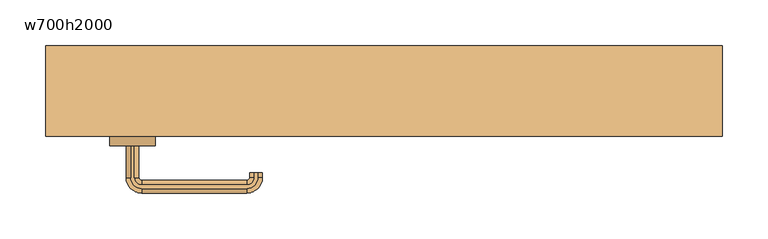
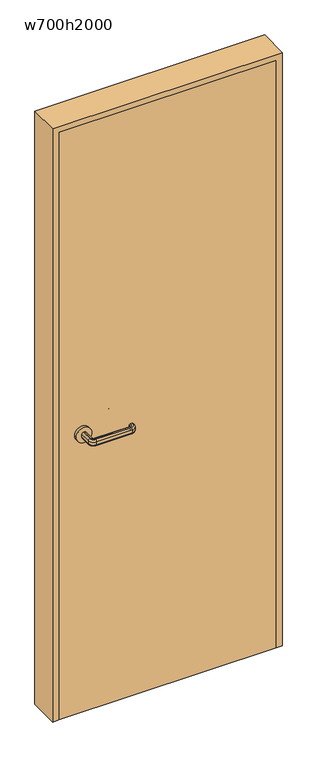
"""IFC4 building model written with IfcOpenShell, lengths in millimetres: door geometry, 片開き : w700h2000."""

from ifc_helpers import new_model, si_unit, point, frame, frame_2d, origin, origin_with_axes, place, context, project, spatial, polyline, circle_curve, ellipse_curve, trimmed, segment, composite_curve, outline, extrude, source, transform, mapped, element, save
from ifc_brep_helpers import plane_surface, cylinder_surface, revolved_surface, advanced_brep


def w700h2000_2a992a34(model_context):
    return source(origin(), model_context, "Body", "SolidModel", [
        advanced_brep(
        [(-277.0, -59.5, 960.0), (-273.0, -59.5, 960.0), (-268.0, -59.5, 955.0), (-268.0, -59.5, 945.0477623), (-273.0, -59.5, 940.0477623), (-277.0, -59.5, 940.0477623), (-282.0, -59.5, 945.0477623), (-282.0, -59.5, 955.0), (-282.0, -94.5, 955.0), (-277.0, -94.5, 960.0), (-282.0, -94.5, 945.0477623), (-277.0, -94.5, 940.0477623), (-273.0, -94.5, 940.0477623), (-265.0, -102.5, 940.0477623), (-150.0, -102.5, 940.0477623), (-142.0, -94.5, 940.0477623), (-142.0, -89.5, 940.0477623), (-138.0, -89.5, 940.0477623), (-138.0, -94.5, 940.0477623), (-150.0, -106.5, 940.0477623), (-265.0, -106.5, 940.0477623), (-268.0, -94.5, 945.0477623), (-268.0, -94.5, 955.0), (-273.0, -94.5, 960.0), (-265.0, -106.5, 960.0), (-150.0, -106.5, 960.0), (-138.0, -94.5, 960.0), (-138.0, -89.5, 960.0), (-142.0, -89.5, 960.0), (-142.0, -94.5, 960.0), (-150.0, -102.5, 960.0), (-265.0, -102.5, 960.0), (-265.0, -111.5, 955.0), (-265.0, -111.5, 945.0477623), (-265.0, -97.5, 945.0477623), (-265.0, -97.5, 955.0), (-150.0, -111.5, 955.0), (-150.0, -111.5, 945.0477623), (-150.0, -97.5, 945.0477623), (-150.0, -97.5, 955.0), (-133.0, -94.5, 955.0), (-133.0, -94.5, 945.0477623), (-147.0, -94.5, 945.0477623), (-147.0, -94.5, 955.0), (-133.0, -89.5, 955.0), (-133.0, -89.5, 945.0477623), (-147.0, -89.5, 945.0477623), (-147.0, -89.5, 955.0)],
        [
            (0, 1),
            (1, 2, circle_curve(frame((-273.0, -59.5, 955.0), z_axis=(0.0, 1.0, 0.0), x_axis=(-1.0, 0.0, 0.0)), 5.0)),
            (2, 3),
            (3, 4, circle_curve(frame((-273.0, -59.5, 945.0477623), z_axis=(0.0, 1.0, 0.0), x_axis=(-1.0, 0.0, 0.0)), 5.0)),
            (4, 5),
            (5, 6, circle_curve(frame((-277.0, -59.5, 945.0477623), z_axis=(0.0, 1.0, 0.0), x_axis=(-1.0, 0.0, 0.0)), 5.0)),
            (6, 7),
            (7, 0, circle_curve(frame((-277.0, -59.5, 955.0), z_axis=(0.0, 1.0, 0.0), x_axis=(-1.0, 0.0, 0.0)), 5.0)),
            (7, 8),
            (8, 9, circle_curve(frame((-277.0, -94.5, 955.0), z_axis=(0.0, 1.0, 0.0), x_axis=(-1.0, 0.0, 0.0)), 5.0)),
            (9, 0),
            (6, 10),
            (10, 8),
            (5, 11),
            (11, 10, circle_curve(frame((-277.0, -94.5, 945.0477623), z_axis=(0.0, 1.0, 0.0), x_axis=(-1.0, 0.0, 0.0)), 5.0)),
            (4, 12),
            (12, 13, circle_curve(frame((-265.0, -94.5, 940.0477623), z_axis=(0.0, 0.0, 1.0), x_axis=(-1.0, 0.0, 0.0)), 8.0)),
            (13, 14),
            (14, 15, circle_curve(frame((-150.0, -94.5, 940.0477623), z_axis=(0.0, 0.0, 1.0), x_axis=(0.0, -1.0, 0.0)), 8.0)),
            (15, 16),
            (16, 17),
            (17, 18),
            (18, 19, circle_curve(frame((-150.0, -94.5, 940.0477623), z_axis=(0.0, 0.0, -1.0), x_axis=(0.0, -1.0, 0.0)), 12.0)),
            (19, 20),
            (20, 11, circle_curve(frame((-265.0, -94.5, 940.0477623), z_axis=(0.0, 0.0, -1.0), x_axis=(-1.0, 0.0, 0.0)), 12.0)),
            (3, 21),
            (21, 12, circle_curve(frame((-273.0, -94.5, 945.0477623), z_axis=(0.0, 1.0, 0.0), x_axis=(-1.0, 0.0, 0.0)), 5.0)),
            (2, 22),
            (22, 21),
            (1, 23),
            (23, 22, circle_curve(frame((-273.0, -94.5, 955.0), z_axis=(0.0, 1.0, 0.0), x_axis=(-1.0, 0.0, 0.0)), 5.0)),
            (9, 24, circle_curve(frame((-265.0, -94.5, 960.0), z_axis=(0.0, 0.0, 1.0), x_axis=(-1.0, 0.0, 0.0)), 12.0)),
            (24, 25),
            (25, 26, circle_curve(frame((-150.0, -94.5, 960.0), z_axis=(0.0, 0.0, 1.0), x_axis=(0.0, -1.0, 0.0)), 12.0)),
            (26, 27),
            (27, 28),
            (28, 29),
            (29, 30, circle_curve(frame((-150.0, -94.5, 960.0), z_axis=(0.0, 0.0, -1.0), x_axis=(0.0, -1.0, 0.0)), 8.0)),
            (30, 31),
            (31, 23, circle_curve(frame((-265.0, -94.5, 960.0), z_axis=(0.0, 0.0, -1.0), x_axis=(-1.0, 0.0, 0.0)), 8.0)),
            (32, 24, circle_curve(frame((-265.0, -106.5, 955.0), z_axis=(-1.0, 0.0, 0.0), x_axis=(0.0, -1.0, 0.0)), 5.0)),
            (8, 32, circle_curve(frame((-265.0, -94.5, 955.0), z_axis=(0.0, 0.0, 1.0), x_axis=(-1.0, 0.0, 0.0)), 17.0)),
            (33, 32),
            (10, 33, circle_curve(frame((-265.0, -94.5, 945.0477623), z_axis=(0.0, 0.0, 1.0), x_axis=(-1.0, 0.0, 0.0)), 17.0)),
            (20, 33, circle_curve(frame((-265.0, -106.5, 945.0477623), z_axis=(-1.0, 0.0, 0.0), x_axis=(0.0, -1.0, 0.0)), 5.0)),
            (34, 13, circle_curve(frame((-265.0, -102.5, 945.0477623), z_axis=(-1.0, 0.0, 0.0), x_axis=(0.0, -1.0, 0.0)), 5.0)),
            (21, 34, circle_curve(frame((-265.0, -94.5, 945.0477623), z_axis=(0.0, 0.0, 1.0), x_axis=(-1.0, 0.0, 0.0)), 3.0)),
            (35, 34),
            (22, 35, circle_curve(frame((-265.0, -94.5, 955.0), z_axis=(0.0, 0.0, 1.0), x_axis=(-1.0, 0.0, 0.0)), 3.0)),
            (31, 35, circle_curve(frame((-265.0, -102.5, 955.0), z_axis=(-1.0, 0.0, 0.0), x_axis=(0.0, -1.0, 0.0)), 5.0)),
            (32, 36),
            (36, 25, circle_curve(frame((-150.0, -106.5, 955.0), z_axis=(-1.0, 0.0, 0.0), x_axis=(0.0, -1.0, 0.0)), 5.0)),
            (33, 37),
            (37, 36),
            (19, 37, circle_curve(frame((-150.0, -106.5, 945.0477623), z_axis=(-1.0, 0.0, 0.0), x_axis=(0.0, -1.0, 0.0)), 5.0)),
            (34, 38),
            (38, 14, circle_curve(frame((-150.0, -102.5, 945.0477623), z_axis=(-1.0, 0.0, 0.0), x_axis=(0.0, -1.0, 0.0)), 5.0)),
            (35, 39),
            (39, 38),
            (30, 39, circle_curve(frame((-150.0, -102.5, 955.0), z_axis=(-1.0, 0.0, 0.0), x_axis=(0.0, -1.0, 0.0)), 5.0)),
            (40, 26, circle_curve(frame((-138.0, -94.5, 955.0), z_axis=(0.0, -1.0, 0.0), x_axis=(1.0, 0.0, 0.0)), 5.0)),
            (36, 40, circle_curve(frame((-150.0, -94.5, 955.0), z_axis=(0.0, 0.0, 1.0), x_axis=(0.0, -1.0, 0.0)), 17.0)),
            (41, 40),
            (37, 41, circle_curve(frame((-150.0, -94.5, 945.0477623), z_axis=(0.0, 0.0, 1.0), x_axis=(0.0, -1.0, 0.0)), 17.0)),
            (18, 41, circle_curve(frame((-138.0, -94.5, 945.0477623), z_axis=(0.0, -1.0, 0.0), x_axis=(1.0, 0.0, 0.0)), 5.0)),
            (42, 15, circle_curve(frame((-142.0, -94.5, 945.0477623), z_axis=(0.0, -1.0, 0.0), x_axis=(1.0, 0.0, 0.0)), 5.0)),
            (38, 42, circle_curve(frame((-150.0, -94.5, 945.0477623), z_axis=(0.0, 0.0, 1.0), x_axis=(0.0, -1.0, 0.0)), 3.0)),
            (43, 42),
            (39, 43, circle_curve(frame((-150.0, -94.5, 955.0), z_axis=(0.0, 0.0, 1.0), x_axis=(0.0, -1.0, 0.0)), 3.0)),
            (29, 43, circle_curve(frame((-142.0, -94.5, 955.0), z_axis=(0.0, -1.0, 0.0), x_axis=(1.0, 0.0, 0.0)), 5.0)),
            (27, 44, circle_curve(frame((-138.0, -89.5, 955.0), z_axis=(0.0, 1.0, 0.0), x_axis=(1.0, 0.0, 0.0)), 5.0)),
            (44, 45),
            (45, 17, circle_curve(frame((-138.0, -89.5, 945.0477623), z_axis=(0.0, 1.0, 0.0), x_axis=(1.0, 0.0, 0.0)), 5.0)),
            (16, 46, circle_curve(frame((-142.0, -89.5, 945.0477623), z_axis=(0.0, 1.0, 0.0), x_axis=(1.0, 0.0, 0.0)), 5.0)),
            (46, 47),
            (47, 28, circle_curve(frame((-142.0, -89.5, 955.0), z_axis=(0.0, 1.0, 0.0), x_axis=(1.0, 0.0, 0.0)), 5.0)),
            (40, 44),
            (41, 45),
            (42, 46),
            (43, 47),
        ],
        [
            plane_surface(frame((-285.198039, -59.5, 950.0), z_axis=(0.0, 1.0, 0.0), x_axis=(0.0, 0.0, 1.0))),
            cylinder_surface(frame((-277.0, -59.5, 955.0), z_axis=(0.0, 1.0, 0.0), x_axis=(-1.0, 0.0, 0.0)), 5.0),
            plane_surface(frame((-282.0, -59.5, 955.0), z_axis=(-1.0, 0.0, 0.0), x_axis=(0.0, -1.0, 0.0))),
            cylinder_surface(frame((-277.0, -59.5, 945.0477623), z_axis=(0.0, 1.0, 0.0), x_axis=(-1.0, 0.0, 0.0)), 5.0),
            plane_surface(frame((-277.0, -59.5, 940.0477623), z_axis=(0.0, 0.0, -1.0), x_axis=(0.0, -1.0, 0.0))),
            cylinder_surface(frame((-273.0, -59.5, 945.0477623), z_axis=(0.0, 1.0, 0.0), x_axis=(-1.0, 0.0, 0.0)), 5.0),
            plane_surface(frame((-268.0, -59.5, 945.0477623), z_axis=(1.0, 0.0, 0.0), x_axis=(0.0, -1.0, 0.0))),
            cylinder_surface(frame((-273.0, -59.5, 955.0), z_axis=(0.0, 1.0, 0.0), x_axis=(-1.0, 0.0, 0.0)), 5.0),
            plane_surface(frame((-273.0, -59.5, 960.0), z_axis=(0.0, 0.0, 1.0), x_axis=(0.0, -1.0, 0.0))),
            revolved_surface(trimmed(ellipse_curve(frame((-277.0, -94.5, 955.0), z_axis=(0.0, -1.0, 0.0), x_axis=(-1.0, 0.0, 0.0)), 5.0, 5.0), [point((-277.0, -94.5, 960.0))], [point((-282.0, -94.5, 955.0))], True, "CARTESIAN"), (-265.0, -94.5, 950.0), (0.0, 0.0, -1.0)),
            cylinder_surface(frame((-265.0, -94.5, 950.0), z_axis=(0.0, 0.0, -1.0), x_axis=(-1.0, 0.0, 0.0)), 17.0),
            revolved_surface(trimmed(ellipse_curve(frame((-277.0, -94.5, 945.0477623), z_axis=(0.0, -1.0, 0.0), x_axis=(-1.0, 0.0, 0.0)), 5.0, 5.0), [point((-282.0, -94.5, 945.0477623))], [point((-277.0, -94.5, 940.0477623))], True, "CARTESIAN"), (-265.0, -94.5, 950.0), (0.0, 0.0, -1.0)),
            revolved_surface(trimmed(ellipse_curve(frame((-273.0, -94.5, 945.0477623), z_axis=(0.0, -1.0, 0.0), x_axis=(-1.0, 0.0, 0.0)), 5.0, 5.0), [point((-273.0, -94.5, 940.0477623))], [point((-268.0, -94.5, 945.0477623))], True, "CARTESIAN"), (-265.0, -94.5, 950.0), (0.0, 0.0, -1.0)),
            revolved_surface(polyline([(-268.0, -94.5, 945.0477623), (-268.0, -94.5, 955.0)]), (-265.0, -94.5, 950.0), (0.0, 0.0, -1.0)),
            revolved_surface(trimmed(ellipse_curve(frame((-273.0, -94.5, 955.0), z_axis=(0.0, -1.0, 0.0), x_axis=(-1.0, 0.0, 0.0)), 5.0, 5.0), [point((-268.0, -94.5, 955.0))], [point((-273.0, -94.5, 960.0))], True, "CARTESIAN"), (-265.0, -94.5, 950.0), (0.0, 0.0, -1.0)),
            cylinder_surface(frame((-265.0, -106.5, 955.0), z_axis=(-1.0, 0.0, 0.0), x_axis=(0.0, -1.0, 0.0)), 5.0),
            plane_surface(frame((-265.0, -111.5, 955.0), z_axis=(0.0, -1.0, 0.0), x_axis=(1.0, 0.0, 0.0))),
            cylinder_surface(frame((-265.0, -106.5, 945.0477623), z_axis=(-1.0, 0.0, 0.0), x_axis=(0.0, -1.0, 0.0)), 5.0),
            cylinder_surface(frame((-265.0, -102.5, 945.0477623), z_axis=(-1.0, 0.0, 0.0), x_axis=(0.0, -1.0, 0.0)), 5.0),
            plane_surface(frame((-265.0, -97.5, 945.0477623), z_axis=(0.0, 1.0, 0.0), x_axis=(1.0, 0.0, 0.0))),
            cylinder_surface(frame((-265.0, -102.5, 955.0), z_axis=(-1.0, 0.0, 0.0), x_axis=(0.0, -1.0, 0.0)), 5.0),
            revolved_surface(trimmed(ellipse_curve(frame((-150.0, -106.5, 955.0), z_axis=(1.0, 0.0, 0.0), x_axis=(0.0, -1.0, 0.0)), 5.0, 5.0), [point((-150.0, -106.5, 960.0))], [point((-150.0, -111.5, 955.0))], True, "CARTESIAN"), (-150.0, -94.5, 950.0), (0.0, 0.0, -1.0)),
            cylinder_surface(frame((-150.0, -94.5, 950.0), z_axis=(0.0, 0.0, -1.0), x_axis=(0.0, -1.0, 0.0)), 17.0),
            revolved_surface(trimmed(ellipse_curve(frame((-150.0, -106.5, 945.0477623), z_axis=(1.0, 0.0, 0.0), x_axis=(0.0, -1.0, 0.0)), 5.0, 5.0), [point((-150.0, -111.5, 945.0477623))], [point((-150.0, -106.5, 940.0477623))], True, "CARTESIAN"), (-150.0, -94.5, 950.0), (0.0, 0.0, -1.0)),
            revolved_surface(trimmed(ellipse_curve(frame((-150.0, -102.5, 945.0477623), z_axis=(1.0, 0.0, 0.0), x_axis=(0.0, -1.0, 0.0)), 5.0, 5.0), [point((-150.0, -102.5, 940.0477623))], [point((-150.0, -97.5, 945.0477623))], True, "CARTESIAN"), (-150.0, -94.5, 950.0), (0.0, 0.0, -1.0)),
            revolved_surface(polyline([(-150.0, -97.5, 945.0477623), (-150.0, -97.5, 955.0)]), (-150.0, -94.5, 950.0), (0.0, 0.0, -1.0)),
            revolved_surface(trimmed(ellipse_curve(frame((-150.0, -102.5, 955.0), z_axis=(1.0, 0.0, 0.0), x_axis=(0.0, -1.0, 0.0)), 5.0, 5.0), [point((-150.0, -97.5, 955.0))], [point((-150.0, -102.5, 960.0))], True, "CARTESIAN"), (-150.0, -94.5, 950.0), (0.0, 0.0, -1.0)),
            plane_surface(frame((-150.198039, -89.5, 950.0), z_axis=(0.0, 1.0, 0.0), x_axis=(0.0, 0.0, -1.0))),
            cylinder_surface(frame((-138.0, -94.5, 955.0), z_axis=(0.0, -1.0, 0.0), x_axis=(1.0, 0.0, 0.0)), 5.0),
            plane_surface(frame((-133.0, -94.5, 955.0), z_axis=(1.0, 0.0, 0.0), x_axis=(0.0, 1.0, 0.0))),
            cylinder_surface(frame((-138.0, -94.5, 945.0477623), z_axis=(0.0, -1.0, 0.0), x_axis=(1.0, 0.0, 0.0)), 5.0),
            cylinder_surface(frame((-142.0, -94.5, 945.0477623), z_axis=(0.0, -1.0, 0.0), x_axis=(1.0, 0.0, 0.0)), 5.0),
            plane_surface(frame((-147.0, -94.5, 945.0477623), z_axis=(-1.0, 0.0, 0.0), x_axis=(0.0, 1.0, 0.0))),
            cylinder_surface(frame((-142.0, -94.5, 955.0), z_axis=(0.0, -1.0, 0.0), x_axis=(1.0, 0.0, 0.0)), 5.0),
        ],
        [
            (0, [[1, 2, 3, 4, 5, 6, 7, 8]]),
            (1, [[9, 10, 11, -8]]),
            (2, [[12, 13, -9, -7]]),
            (3, [[14, 15, -12, -6]]),
            (4, [[16, 17, 18, 19, 20, 21, 22, 23, 24, 25, -14, -5]]),
            (5, [[26, 27, -16, -4]]),
            (6, [[28, 29, -26, -3]]),
            (7, [[30, 31, -28, -2]]),
            (8, [[-11, 32, 33, 34, 35, 36, 37, 38, 39, 40, -30, -1]]),
            (9, [[41, -32, -10, 42]]),
            (10, [[43, -42, -13, 44]]),
            (11, [[45, -44, -15, -25]]),
            (12, [[46, -17, -27, 47]]),
            (13, [[48, -47, -29, 49]]),
            (14, [[50, -49, -31, -40]]),
            (15, [[51, 52, -33, -41]]),
            (16, [[53, 54, -51, -43]]),
            (17, [[-24, 55, -53, -45]]),
            (18, [[56, 57, -18, -46]]),
            (19, [[58, 59, -56, -48]]),
            (20, [[-39, 60, -58, -50]]),
            (21, [[61, -34, -52, 62]]),
            (22, [[63, -62, -54, 64]]),
            (23, [[65, -64, -55, -23]]),
            (24, [[66, -19, -57, 67]]),
            (25, [[68, -67, -59, 69]]),
            (26, [[70, -69, -60, -38]]),
            (27, [[71, 72, 73, -21, 74, 75, 76, -36]]),
            (28, [[77, -71, -35, -61]]),
            (29, [[78, -72, -77, -63]]),
            (30, [[-22, -73, -78, -65]]),
            (31, [[79, -74, -20, -66]]),
            (32, [[80, -75, -79, -68]]),
            (33, [[-37, -76, -80, -70]]),
        ],
    ),
        advanced_brep(
        [(-273.0, -9.5, 940.0), (-268.0, -9.5, 945.0), (-268.0, -9.5, 955.0), (-273.0, -9.5, 960.0), (-277.0, -9.5, 960.0), (-282.0, -9.5, 955.0), (-282.0, -9.5, 945.0), (-277.0, -9.5, 940.0), (-277.0, 25.5, 940.0), (-265.0, 37.5, 940.0), (-150.0, 37.5, 940.0), (-138.0, 25.5, 940.0), (-138.0, 20.5, 940.0), (-142.0, 20.5, 940.0), (-142.0, 25.5, 940.0), (-150.0, 33.5, 940.0), (-265.0, 33.5, 940.0), (-273.0, 25.5, 940.0), (-282.0, 25.5, 945.0), (-282.0, 25.5, 955.0), (-277.0, 25.5, 960.0), (-273.0, 25.5, 960.0), (-265.0, 33.5, 960.0), (-150.0, 33.5, 960.0), (-142.0, 25.5, 960.0), (-142.0, 20.5, 960.0), (-138.0, 20.5, 960.0), (-138.0, 25.5, 960.0), (-150.0, 37.5, 960.0), (-265.0, 37.5, 960.0), (-268.0, 25.5, 955.0), (-268.0, 25.5, 945.0), (-265.0, 42.5, 945.0), (-265.0, 42.5, 955.0), (-265.0, 28.5, 955.0), (-265.0, 28.5, 945.0), (-150.0, 42.5, 945.0), (-150.0, 42.5, 955.0), (-150.0, 28.5, 955.0), (-150.0, 28.5, 945.0), (-133.0, 25.5, 945.0), (-133.0, 25.5, 955.0), (-147.0, 25.5, 955.0), (-147.0, 25.5, 945.0), (-133.0, 20.5, 945.0), (-133.0, 20.5, 955.0), (-147.0, 20.5, 955.0), (-147.0, 20.5, 945.0)],
        [
            (0, 1, circle_curve(frame((-273.0, -9.5, 945.0), z_axis=(0.0, -1.0, 0.0), x_axis=(1.0, 0.0, 0.0)), 5.0)),
            (1, 2),
            (2, 3, circle_curve(frame((-273.0, -9.5, 955.0), z_axis=(0.0, -1.0, 0.0), x_axis=(1.0, 0.0, 0.0)), 5.0)),
            (3, 4),
            (4, 5, circle_curve(frame((-277.0, -9.5, 955.0), z_axis=(0.0, -1.0, 0.0), x_axis=(1.0, 0.0, 0.0)), 5.0)),
            (5, 6),
            (6, 7, circle_curve(frame((-277.0, -9.5, 945.0), z_axis=(0.0, -1.0, 0.0), x_axis=(1.0, 0.0, 0.0)), 5.0)),
            (7, 0),
            (7, 8),
            (8, 9, circle_curve(frame((-265.0, 25.5, 940.0), z_axis=(0.0, 0.0, -1.0), x_axis=(-1.0, 0.0, 0.0)), 12.0)),
            (9, 10),
            (10, 11, circle_curve(frame((-150.0, 25.5, 940.0), z_axis=(0.0, 0.0, -1.0), x_axis=(0.0, 1.0, 0.0)), 12.0)),
            (11, 12),
            (12, 13),
            (13, 14),
            (14, 15, circle_curve(frame((-150.0, 25.5, 940.0), z_axis=(0.0, 0.0, 1.0), x_axis=(0.0, 1.0, 0.0)), 8.0)),
            (15, 16),
            (16, 17, circle_curve(frame((-265.0, 25.5, 940.0), z_axis=(0.0, 0.0, 1.0), x_axis=(-1.0, 0.0, 0.0)), 8.0)),
            (17, 0),
            (6, 18),
            (18, 8, circle_curve(frame((-277.0, 25.5, 945.0), z_axis=(0.0, -1.0, 0.0), x_axis=(1.0, 0.0, 0.0)), 5.0)),
            (5, 19),
            (19, 18),
            (4, 20),
            (20, 19, circle_curve(frame((-277.0, 25.5, 955.0), z_axis=(0.0, -1.0, 0.0), x_axis=(1.0, 0.0, 0.0)), 5.0)),
            (3, 21),
            (21, 22, circle_curve(frame((-265.0, 25.5, 960.0), z_axis=(0.0, 0.0, -1.0), x_axis=(-1.0, 0.0, 0.0)), 8.0)),
            (22, 23),
            (23, 24, circle_curve(frame((-150.0, 25.5, 960.0), z_axis=(0.0, 0.0, -1.0), x_axis=(0.0, 1.0, 0.0)), 8.0)),
            (24, 25),
            (25, 26),
            (26, 27),
            (27, 28, circle_curve(frame((-150.0, 25.5, 960.0), z_axis=(0.0, 0.0, 1.0), x_axis=(0.0, 1.0, 0.0)), 12.0)),
            (28, 29),
            (29, 20, circle_curve(frame((-265.0, 25.5, 960.0), z_axis=(0.0, 0.0, 1.0), x_axis=(-1.0, 0.0, 0.0)), 12.0)),
            (2, 30),
            (30, 21, circle_curve(frame((-273.0, 25.5, 955.0), z_axis=(0.0, -1.0, 0.0), x_axis=(1.0, 0.0, 0.0)), 5.0)),
            (1, 31),
            (31, 30),
            (17, 31, circle_curve(frame((-273.0, 25.5, 945.0), z_axis=(0.0, -1.0, 0.0), x_axis=(1.0, 0.0, 0.0)), 5.0)),
            (32, 9, circle_curve(frame((-265.0, 37.5, 945.0), z_axis=(-1.0, 0.0, 0.0), x_axis=(0.0, -1.0, 0.0)), 5.0)),
            (18, 32, circle_curve(frame((-265.0, 25.5, 945.0), z_axis=(0.0, 0.0, -1.0), x_axis=(-1.0, 0.0, 0.0)), 17.0)),
            (33, 32),
            (19, 33, circle_curve(frame((-265.0, 25.5, 955.0), z_axis=(0.0, 0.0, -1.0), x_axis=(-1.0, 0.0, 0.0)), 17.0)),
            (29, 33, circle_curve(frame((-265.0, 37.5, 955.0), z_axis=(-1.0, 0.0, 0.0), x_axis=(0.0, -1.0, 0.0)), 5.0)),
            (34, 22, circle_curve(frame((-265.0, 33.5, 955.0), z_axis=(-1.0, 0.0, 0.0), x_axis=(0.0, -1.0, 0.0)), 5.0)),
            (30, 34, circle_curve(frame((-265.0, 25.5, 955.0), z_axis=(0.0, 0.0, -1.0), x_axis=(-1.0, 0.0, 0.0)), 3.0)),
            (35, 34),
            (31, 35, circle_curve(frame((-265.0, 25.5, 945.0), z_axis=(0.0, 0.0, -1.0), x_axis=(-1.0, 0.0, 0.0)), 3.0)),
            (16, 35, circle_curve(frame((-265.0, 33.5, 945.0), z_axis=(-1.0, 0.0, 0.0), x_axis=(0.0, -1.0, 0.0)), 5.0)),
            (32, 36),
            (36, 10, circle_curve(frame((-150.0, 37.5, 945.0), z_axis=(-1.0, 0.0, 0.0), x_axis=(0.0, -1.0, 0.0)), 5.0)),
            (33, 37),
            (37, 36),
            (28, 37, circle_curve(frame((-150.0, 37.5, 955.0), z_axis=(-1.0, 0.0, 0.0), x_axis=(0.0, -1.0, 0.0)), 5.0)),
            (34, 38),
            (38, 23, circle_curve(frame((-150.0, 33.5, 955.0), z_axis=(-1.0, 0.0, 0.0), x_axis=(0.0, -1.0, 0.0)), 5.0)),
            (35, 39),
            (39, 38),
            (15, 39, circle_curve(frame((-150.0, 33.5, 945.0), z_axis=(-1.0, 0.0, 0.0), x_axis=(0.0, -1.0, 0.0)), 5.0)),
            (40, 11, circle_curve(frame((-138.0, 25.5, 945.0), z_axis=(0.0, 1.0, 0.0), x_axis=(-1.0, 0.0, 0.0)), 5.0)),
            (36, 40, circle_curve(frame((-150.0, 25.5, 945.0), z_axis=(0.0, 0.0, -1.0), x_axis=(0.0, 1.0, 0.0)), 17.0)),
            (41, 40),
            (37, 41, circle_curve(frame((-150.0, 25.5, 955.0), z_axis=(0.0, 0.0, -1.0), x_axis=(0.0, 1.0, 0.0)), 17.0)),
            (27, 41, circle_curve(frame((-138.0, 25.5, 955.0), z_axis=(0.0, 1.0, 0.0), x_axis=(-1.0, 0.0, 0.0)), 5.0)),
            (42, 24, circle_curve(frame((-142.0, 25.5, 955.0), z_axis=(0.0, 1.0, 0.0), x_axis=(-1.0, 0.0, 0.0)), 5.0)),
            (38, 42, circle_curve(frame((-150.0, 25.5, 955.0), z_axis=(0.0, 0.0, -1.0), x_axis=(0.0, 1.0, 0.0)), 3.0)),
            (43, 42),
            (39, 43, circle_curve(frame((-150.0, 25.5, 945.0), z_axis=(0.0, 0.0, -1.0), x_axis=(0.0, 1.0, 0.0)), 3.0)),
            (14, 43, circle_curve(frame((-142.0, 25.5, 945.0), z_axis=(0.0, 1.0, 0.0), x_axis=(-1.0, 0.0, 0.0)), 5.0)),
            (12, 44, circle_curve(frame((-138.0, 20.5, 945.0), z_axis=(0.0, -1.0, 0.0), x_axis=(-1.0, 0.0, 0.0)), 5.0)),
            (44, 45),
            (45, 26, circle_curve(frame((-138.0, 20.5, 955.0), z_axis=(0.0, -1.0, 0.0), x_axis=(-1.0, 0.0, 0.0)), 5.0)),
            (25, 46, circle_curve(frame((-142.0, 20.5, 955.0), z_axis=(0.0, -1.0, 0.0), x_axis=(-1.0, 0.0, 0.0)), 5.0)),
            (46, 47),
            (47, 13, circle_curve(frame((-142.0, 20.5, 945.0), z_axis=(0.0, -1.0, 0.0), x_axis=(-1.0, 0.0, 0.0)), 5.0)),
            (40, 44),
            (41, 45),
            (42, 46),
            (43, 47),
        ],
        [
            plane_surface(frame((-285.198039, -9.5, 950.0), z_axis=(0.0, -1.0, 0.0), x_axis=(0.0, 0.0, -1.0))),
            plane_surface(frame((-273.0, -9.5, 940.0), z_axis=(0.0, 0.0, -1.0), x_axis=(0.0, 1.0, 0.0))),
            cylinder_surface(frame((-277.0, -9.5, 945.0), z_axis=(0.0, -1.0, 0.0), x_axis=(1.0, 0.0, 0.0)), 5.0),
            plane_surface(frame((-282.0, -9.5, 945.0), z_axis=(-1.0, 0.0, 0.0), x_axis=(0.0, 1.0, 0.0))),
            cylinder_surface(frame((-277.0, -9.5, 955.0), z_axis=(0.0, -1.0, 0.0), x_axis=(1.0, 0.0, 0.0)), 5.0),
            plane_surface(frame((-277.0, -9.5, 960.0), z_axis=(0.0, 0.0, 1.0), x_axis=(0.0, 1.0, 0.0))),
            cylinder_surface(frame((-273.0, -9.5, 955.0), z_axis=(0.0, -1.0, 0.0), x_axis=(1.0, 0.0, 0.0)), 5.0),
            plane_surface(frame((-268.0, -9.5, 955.0), z_axis=(1.0, 0.0, 0.0), x_axis=(0.0, 1.0, 0.0))),
            cylinder_surface(frame((-273.0, -9.5, 945.0), z_axis=(0.0, -1.0, 0.0), x_axis=(1.0, 0.0, 0.0)), 5.0),
            revolved_surface(trimmed(ellipse_curve(frame((-277.0, 25.5, 945.0), z_axis=(0.0, 1.0, 0.0), x_axis=(1.0, 0.0, 0.0)), 5.0, 5.0), [point((-277.0, 25.5, 940.0))], [point((-282.0, 25.5, 945.0))], True, "CARTESIAN"), (-265.0, 25.5, 950.0), (0.0, 0.0, 1.0)),
            cylinder_surface(frame((-265.0, 25.5, 950.0), z_axis=(0.0, 0.0, 1.0), x_axis=(-1.0, 0.0, 0.0)), 17.0),
            revolved_surface(trimmed(ellipse_curve(frame((-277.0, 25.5, 955.0), z_axis=(0.0, 1.0, 0.0), x_axis=(1.0, 0.0, 0.0)), 5.0, 5.0), [point((-282.0, 25.5, 955.0))], [point((-277.0, 25.5, 960.0))], True, "CARTESIAN"), (-265.0, 25.5, 950.0), (0.0, 0.0, 1.0)),
            revolved_surface(trimmed(ellipse_curve(frame((-273.0, 25.5, 955.0), z_axis=(0.0, 1.0, 0.0), x_axis=(1.0, 0.0, 0.0)), 5.0, 5.0), [point((-273.0, 25.5, 960.0))], [point((-268.0, 25.5, 955.0))], True, "CARTESIAN"), (-265.0, 25.5, 950.0), (0.0, 0.0, 1.0)),
            revolved_surface(polyline([(-268.0, 25.5, 955.0), (-268.0, 25.5, 945.0)]), (-265.0, 25.5, 950.0), (0.0, 0.0, 1.0)),
            revolved_surface(trimmed(ellipse_curve(frame((-273.0, 25.5, 945.0), z_axis=(0.0, 1.0, 0.0), x_axis=(1.0, 0.0, 0.0)), 5.0, 5.0), [point((-268.0, 25.5, 945.0))], [point((-273.0, 25.5, 940.0))], True, "CARTESIAN"), (-265.0, 25.5, 950.0), (0.0, 0.0, 1.0)),
            cylinder_surface(frame((-265.0, 37.5, 945.0), z_axis=(-1.0, 0.0, 0.0), x_axis=(0.0, -1.0, 0.0)), 5.0),
            plane_surface(frame((-265.0, 42.5, 945.0), z_axis=(0.0, 1.0, 0.0), x_axis=(1.0, 0.0, 0.0))),
            cylinder_surface(frame((-265.0, 37.5, 955.0), z_axis=(-1.0, 0.0, 0.0), x_axis=(0.0, -1.0, 0.0)), 5.0),
            cylinder_surface(frame((-265.0, 33.5, 955.0), z_axis=(-1.0, 0.0, 0.0), x_axis=(0.0, -1.0, 0.0)), 5.0),
            plane_surface(frame((-265.0, 28.5, 955.0), z_axis=(0.0, -1.0, 0.0), x_axis=(1.0, 0.0, 0.0))),
            cylinder_surface(frame((-265.0, 33.5, 945.0), z_axis=(-1.0, 0.0, 0.0), x_axis=(0.0, -1.0, 0.0)), 5.0),
            revolved_surface(trimmed(ellipse_curve(frame((-150.0, 37.5, 945.0), z_axis=(1.0, 0.0, 0.0), x_axis=(0.0, -1.0, 0.0)), 5.0, 5.0), [point((-150.0, 37.5, 940.0))], [point((-150.0, 42.5, 945.0))], True, "CARTESIAN"), (-150.0, 25.5, 950.0), (0.0, 0.0, 1.0)),
            cylinder_surface(frame((-150.0, 25.5, 950.0), z_axis=(0.0, 0.0, 1.0), x_axis=(0.0, 1.0, 0.0)), 17.0),
            revolved_surface(trimmed(ellipse_curve(frame((-150.0, 37.5, 955.0), z_axis=(1.0, 0.0, 0.0), x_axis=(0.0, -1.0, 0.0)), 5.0, 5.0), [point((-150.0, 42.5, 955.0))], [point((-150.0, 37.5, 960.0))], True, "CARTESIAN"), (-150.0, 25.5, 950.0), (0.0, 0.0, 1.0)),
            revolved_surface(trimmed(ellipse_curve(frame((-150.0, 33.5, 955.0), z_axis=(1.0, 0.0, 0.0), x_axis=(0.0, -1.0, 0.0)), 5.0, 5.0), [point((-150.0, 33.5, 960.0))], [point((-150.0, 28.5, 955.0))], True, "CARTESIAN"), (-150.0, 25.5, 950.0), (0.0, 0.0, 1.0)),
            revolved_surface(polyline([(-150.0, 28.5, 955.0), (-150.0, 28.5, 945.0)]), (-150.0, 25.5, 950.0), (0.0, 0.0, 1.0)),
            revolved_surface(trimmed(ellipse_curve(frame((-150.0, 33.5, 945.0), z_axis=(1.0, 0.0, 0.0), x_axis=(0.0, -1.0, 0.0)), 5.0, 5.0), [point((-150.0, 28.5, 945.0))], [point((-150.0, 33.5, 940.0))], True, "CARTESIAN"), (-150.0, 25.5, 950.0), (0.0, 0.0, 1.0)),
            plane_surface(frame((-150.198039, 20.5, 950.0), z_axis=(0.0, -1.0, 0.0), x_axis=(0.0, 0.0, 1.0))),
            cylinder_surface(frame((-138.0, 25.5, 945.0), z_axis=(0.0, 1.0, 0.0), x_axis=(-1.0, 0.0, 0.0)), 5.0),
            plane_surface(frame((-133.0, 25.5, 945.0), z_axis=(1.0, 0.0, 0.0), x_axis=(0.0, -1.0, 0.0))),
            cylinder_surface(frame((-138.0, 25.5, 955.0), z_axis=(0.0, 1.0, 0.0), x_axis=(-1.0, 0.0, 0.0)), 5.0),
            cylinder_surface(frame((-142.0, 25.5, 955.0), z_axis=(0.0, 1.0, 0.0), x_axis=(-1.0, 0.0, 0.0)), 5.0),
            plane_surface(frame((-147.0, 25.5, 955.0), z_axis=(-1.0, 0.0, 0.0), x_axis=(0.0, -1.0, 0.0))),
            cylinder_surface(frame((-142.0, 25.5, 945.0), z_axis=(0.0, 1.0, 0.0), x_axis=(-1.0, 0.0, 0.0)), 5.0),
        ],
        [
            (0, [[1, 2, 3, 4, 5, 6, 7, 8]]),
            (1, [[9, 10, 11, 12, 13, 14, 15, 16, 17, 18, 19, -8]]),
            (2, [[20, 21, -9, -7]]),
            (3, [[22, 23, -20, -6]]),
            (4, [[24, 25, -22, -5]]),
            (5, [[26, 27, 28, 29, 30, 31, 32, 33, 34, 35, -24, -4]]),
            (6, [[36, 37, -26, -3]]),
            (7, [[38, 39, -36, -2]]),
            (8, [[-19, 40, -38, -1]]),
            (9, [[41, -10, -21, 42]]),
            (10, [[43, -42, -23, 44]]),
            (11, [[45, -44, -25, -35]]),
            (12, [[46, -27, -37, 47]]),
            (13, [[48, -47, -39, 49]]),
            (14, [[50, -49, -40, -18]]),
            (15, [[51, 52, -11, -41]]),
            (16, [[53, 54, -51, -43]]),
            (17, [[-34, 55, -53, -45]]),
            (18, [[56, 57, -28, -46]]),
            (19, [[58, 59, -56, -48]]),
            (20, [[-17, 60, -58, -50]]),
            (21, [[61, -12, -52, 62]]),
            (22, [[63, -62, -54, 64]]),
            (23, [[65, -64, -55, -33]]),
            (24, [[66, -29, -57, 67]]),
            (25, [[68, -67, -59, 69]]),
            (26, [[70, -69, -60, -16]]),
            (27, [[-14, 71, 72, 73, -31, 74, 75, 76]]),
            (28, [[77, -71, -13, -61]]),
            (29, [[78, -72, -77, -63]]),
            (30, [[-32, -73, -78, -65]]),
            (31, [[79, -74, -30, -66]]),
            (32, [[80, -75, -79, -68]]),
            (33, [[-15, -76, -80, -70]]),
        ],
    ),
        extrude(outline(composite_curve([segment(trimmed(circle_curve(frame_2d((950.0, -275.0)), 25.0), [point((950.0, -300.0))], [point((950.0, -250.0))], False, "CARTESIAN"), True, "CONTINUOUS"), segment(trimmed(circle_curve(frame_2d((950.0, -275.0)), 25.0), [point((950.0, -250.0))], [point((950.0, -300.0))], False, "CARTESIAN"), True, "CONTINUOUS")], self_intersect=False)), frame((0.0, -59.5, 0.0), z_axis=(0.0, 1.0, 0.0), x_axis=(0.0, 0.0, 1.0)), (0.0, 0.0, 1.0), 10.0),
        extrude(outline(composite_curve([segment(trimmed(circle_curve(frame_2d((950.0, -275.0)), 25.0), [point((950.0, -300.0))], [point((950.0, -250.0))], False, "CARTESIAN"), True, "CONTINUOUS"), segment(trimmed(circle_curve(frame_2d((950.0, -275.0)), 25.0), [point((950.0, -250.0))], [point((950.0, -300.0))], False, "CARTESIAN"), True, "CONTINUOUS")], self_intersect=False)), frame((0.0, -19.5, 0.0), z_axis=(0.0, 1.0, 0.0), x_axis=(0.0, 0.0, 1.0)), (0.0, 0.0, 1.0), 10.0),
        extrude(outline(polyline([(2020.0, -370.0), (0.0, -370.0), (0.0, -350.0), (2000.0, -350.0), (2000.0, 350.0), (0.0, 350.0), (0.0, 370.0), (2020.0, 370.0), (2020.0, -370.0)])), frame((0.0, -49.5, 0.0), z_axis=(0.0, 1.0, 0.0), x_axis=(0.0, 0.0, 1.0)), (0.0, 0.0, 1.0), 99.0),
        extrude(outline(polyline([(350.0, -19.5), (350.0, -49.5), (-350.0, -49.5), (-350.0, -19.5), (350.0, -19.5)])), origin_with_axes(), (0.0, 0.0, 1.0), 2000.0),
    ])


if __name__ == "__main__":
    model = new_model("IFC4")
    model_context = context("Model", 3, world=origin())
    ifc_project = project(units=[si_unit("LENGTHUNIT", "METRE", prefix="MILLI")], contexts=[model_context])
    site = spatial("IfcSite", under=ifc_project)
    building = spatial("IfcBuilding", under=site)
    placement = place(None, origin())
    w700h2000_shape = w700h2000_2a992a34(model_context)
    element("IfcDoor", 1, ObjectType="片開き : w700h2000", at=placement, inside=building, context=model_context, shape_type="MappedRepresentation", body=[
        mapped(w700h2000_shape, transform((0.0, 0.0, 0.0), x_axis=(1.0, 0.0, 0.0), y_axis=(0.0, 1.0, 0.0), z_axis=(0.0, 0.0, 1.0))),
    ])
    save(model, "model.ifc")
